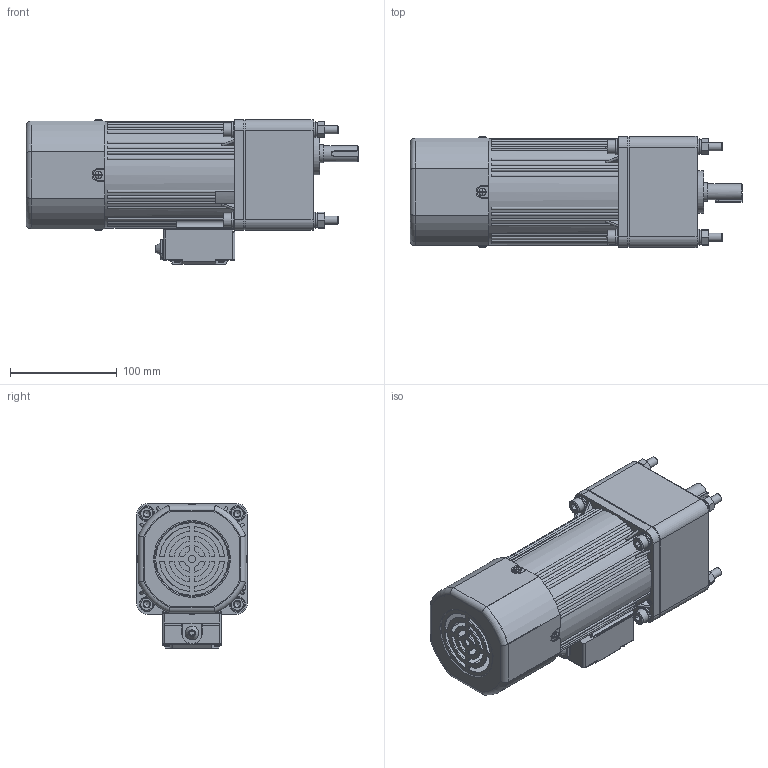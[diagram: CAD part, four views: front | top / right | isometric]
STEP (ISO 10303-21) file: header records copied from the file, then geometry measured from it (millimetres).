
FILE_DESCRIPTION(/* description */ (''),/* implementation_level */ '2;1');
FILE_NAME(/* name */ '6RK160-200RGUC·TMF_6GU3-750K-C·15T长款接线盒.stp',/* time_stamp */ '2025-04-13T16:59:42+08:00',/* author */ (''),/* organization */ (''),/* preprocessor_version */ 'ST-DEVELOPER v18.102',/* originating_system */ 'SIEMENS PLM Software NX 2027',/* authorisation */ '');
FILE_SCHEMA (('AP203_CONFIGURATION_CONTROLLED_3D_DESIGN_OF_MECHANICAL_PARTS_AND_ASSEMBLIES_MIM_LF { 1 0 10303 403 2 1 2}'));
Products named in the file (1): 6RK160-200CC·MRF_6GU3-750K-C·15T_stp_M066263C6523
mulo
Bounding box: 311.5 x 104.06 x 136.03 mm (x, y, z)
Volume: 1018641.5 mm3; surface area: 326782.9 mm2
Topology: 29 solids, 30 shells, 1857 faces, 4790 edges, 3057 vertices
Faces by surface type: plane 814, cylinder 548, bspline 181, cone 176, torus 102, sphere 36
Full cylindrical faces by diameter (mm): 2.2 x2, 2.5 x2, 2.9 x4, 3.3 x4, 3.5 x6, 3.6 x4, 4 x5, 4.2 x1, 4.55 x1, 4.8 x1, 5.15 x1, 5.6 x4, 6 x2, 6.8 x4, 6.985 x4, 7 x2, 7.76 x4, 8 x1, 8.4 x7, 8.5 x4, 9 x8, 10 x2, 13 x5, 14 x5, 15 x9, 15.5 x1, 17 x1, 17.3 x1, 19 x1, 27 x1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
Entity records: 56922 total; most frequent: CARTESIAN_POINT 13576, ORIENTED_EDGE 8856, DIRECTION 8591, EDGE_CURVE 4428, AXIS2_PLACEMENT_3D 3326, VERTEX_POINT 2949, EDGE_LOOP 2276, LINE 1939
